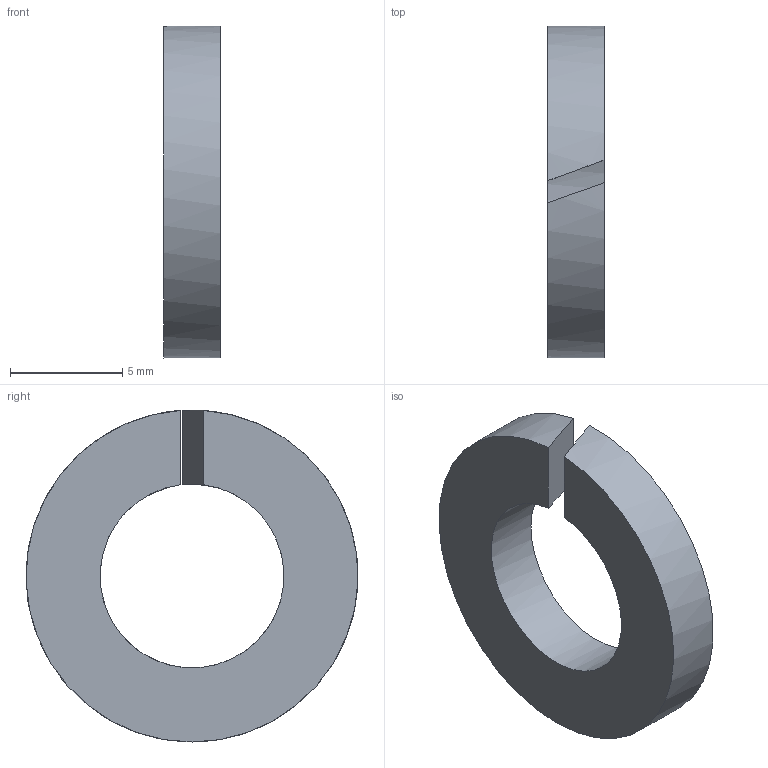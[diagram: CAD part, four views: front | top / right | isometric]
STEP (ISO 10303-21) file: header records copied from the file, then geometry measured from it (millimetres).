
FILE_DESCRIPTION(/* description */ ('스프링 잠금 와셔'),/* implementation_level */ '2;1');
FILE_NAME(/* name */ '',/* time_stamp */ '2024-11-28T15:25:46+09:00',/* author */ ('jhkim'),/* organization */ (''),/* preprocessor_version */ 'ST-DEVELOPER v20',/* originating_system */ 'Autodesk Inventor 2025',/* authorisation */ '');
FILE_SCHEMA (('AUTOMOTIVE_DESIGN { 1 0 10303 214 3 1 1 }'));
Length unit declared in the file: millimetre
Products named in the file (1): 스프링 와셔 M8
Bounding box: 2.5 x 14.8 x 14.8 mm (x, y, z)
Volume: 289.8 mm3; surface area: 425.1 mm2
Topology: 1 solids, 1 shells, 6 faces, 12 edges, 8 vertices
Faces by surface type: plane 4, cylinder 2
Entity records: 207 total; most frequent: DIRECTION 34, CARTESIAN_POINT 27, ORIENTED_EDGE 24, AXIS2_PLACEMENT_3D 15, EDGE_CURVE 12, VERTEX_POINT 8, FACE_OUTER_BOUND 6, EDGE_LOOP 6
